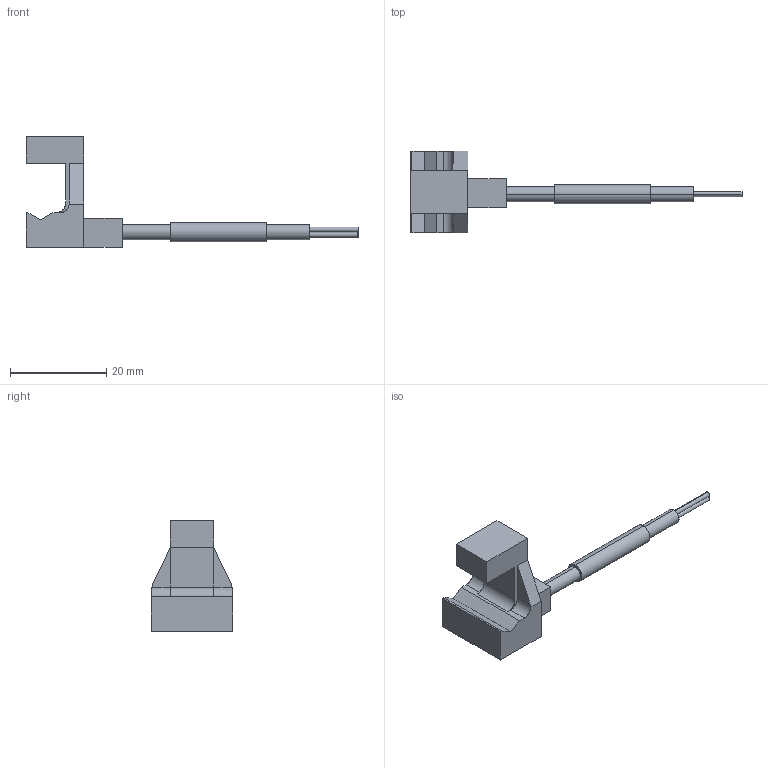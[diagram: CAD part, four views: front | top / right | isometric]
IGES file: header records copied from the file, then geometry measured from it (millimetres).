
Start section: SolidWorks IGES FILE using analytic representation for surfaces
Global section: file name: \\intra-srv04\開発データ\CAD_Data\CAD委員会\3D電子ｶﾀﾛｸﾞ\製品カタログ（新）\0_IGES\FT-F902.IGS,41HSolidWorks 2004; native system: by SolidWorks Corporation; preprocessor: Version 5.3; author: yk0651; date: 050908.144456; units: millimetre
Bounding box: 69 x 17 x 23 mm (x, y, z)
Surface area: 2240.1 mm2 (no closed solid volume)
Topology: 0 solids, 0 shells, 41 faces, 482 edges, 482 vertices
Faces by surface type: bspline 28, revolution 13
